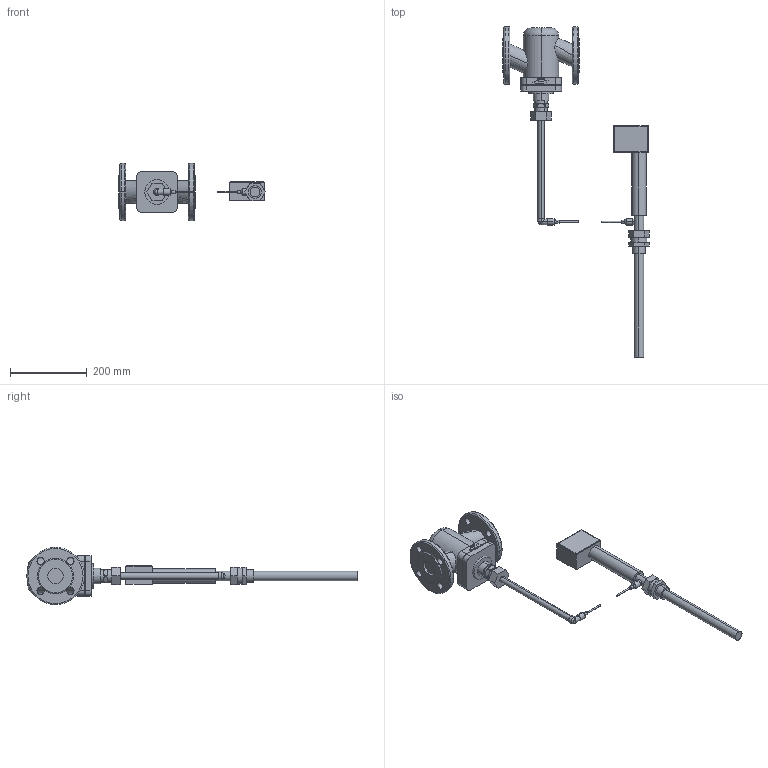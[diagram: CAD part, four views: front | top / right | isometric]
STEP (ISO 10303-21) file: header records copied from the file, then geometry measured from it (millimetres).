
FILE_DESCRIPTION (( 'STEP AP203' ), '1' );
FILE_NAME ('2111(2710)_SS_DIN_040_016_EN-JL1040_B1_std_2231_150.STEP', '2010-03-09T11:25:20', ( '' ), ( '' ), 'SwSTEP 2.0', 'SolidWorks 2006303', '' );
FILE_SCHEMA (( 'CONFIG_CONTROL_DESIGN' ));
Length unit declared in the file: millimetre
Products named in the file (1): 2111(2710)_SS_DIN_040_016_EN-JL1040_B1_std_2231_150
Bounding box: 382.65 x 863.6 x 150 mm (x, y, z)
Surface area: 289675.9 mm2 (no closed solid volume)
Topology: 0 solids, 10 shells, 222 faces, 818 edges, 612 vertices
Faces by surface type: plane 107, cylinder 72, torus 21, bspline 14, cone 7, sphere 1
Entity records: 11865 total; most frequent: CARTESIAN_POINT 5160, ORIENTED_EDGE 1286, DIRECTION 1260, EDGE_CURVE 818, VERTEX_POINT 612, AXIS2_PLACEMENT_3D 431, VECTOR 398, LINE 398
